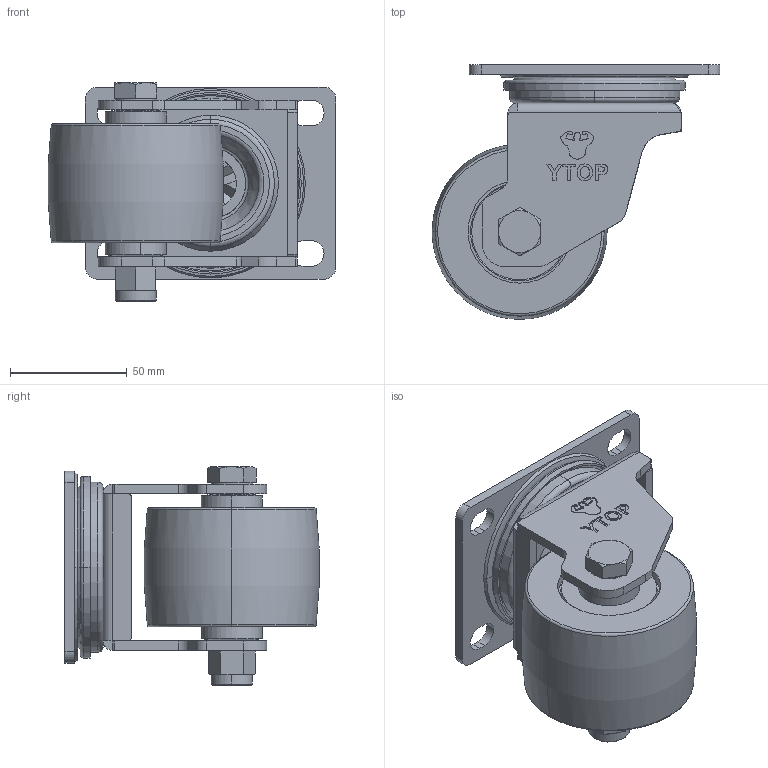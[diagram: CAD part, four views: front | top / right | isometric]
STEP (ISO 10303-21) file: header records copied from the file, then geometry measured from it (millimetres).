
FILE_DESCRIPTION (( 'STEP AP203' ), '1' );
FILE_NAME ('20B-75H-50-PA6 中重型低重心3寸PA6活动轮.STEP', '2023-09-07T08:43:28', ( '' ), ( '' ), 'SwSTEP 2.0', 'SolidWorks 2016', '' );
FILE_SCHEMA (( 'CONFIG_CONTROL_DESIGN' ));
Length unit declared in the file: millimetre
Products named in the file (18): 3寸重型低重心小盖_实测10.1厚; 菜え; 中重型低重心3寸活动轮折板支架; GB／T97．1-2002平垫圈A级16×3; 3寸重型低重心PA6尼龙轮_配62.2套管6202; 重型低重心轮套管17x12x62.2; 恮隊_穩羲袨怓; 中重型低重心3寸活动轮-活动四方板_中重型低重心四方板; 20B-75H-50-PA6 中重型低重心3寸PA6活动轮; GB／T889．1-20001型非金属嵌件六角锁紧螺母M12; 中重型低重心3寸活动轮-下波盘; 中重型低重心3寸活动轮-上波盘; GB／T276-94深沟球轴承6203-2Z; 幗紩10_10; GB／T5782-2000六角头螺栓A级和B级M12×86; 幗紩10_5; 3寸重型低重心PA6尼龙轮_配62.2套管_铁芯; 中重型低重心3寸活动轮-小波盘(65Mn)
Assembly tree (63 placements, depth 3):
  20B-75H-50-PA6 中重型低重心3寸PA6活动轮
    中重型低重心3寸活动轮-下波盘
    幗紩10_5  x28
    幗紩10_10  x18
    中重型低重心3寸活动轮-上波盘
    恮隊_穩羲袨怓
    中重型低重心3寸活动轮-活动四方板_中重型低重心四方板
    菜え
    中重型低重心3寸活动轮折板支架
    3寸重型低重心PA6尼龙轮_配62.2套管6202
      3寸重型低重心PA6尼龙轮_配62.2套管_铁芯
      重型低重心轮套管17x12x62.2
      3寸重型低重心小盖_实测10.1厚  x2
      GB／T276-94深沟球轴承6203-2Z  x2
    GB／T5782-2000六角头螺栓A级和B级M12×86
    GB／T889．1-20001型非金属嵌件六角锁紧螺母M12
    中重型低重心3寸活动轮-小波盘(65Mn)
    GB／T97．1-2002平垫圈A级16×3
Bounding box: 122.84 x 108.62 x 93.5 mm (x, y, z)
Volume: 329012.8 mm3; surface area: 149132.7 mm2
Topology: 62 solids, 62 shells, 1053 faces, 2896 edges, 1891 vertices
Faces by surface type: plane 283, sphere 220, cylinder 174, bspline 170, torus 138, cone 68
Entity records: 33648 total; most frequent: CARTESIAN_POINT 11473, ORIENTED_EDGE 4196, DIRECTION 3618, EDGE_CURVE 2098, AXIS2_PLACEMENT_3D 1428, VERTEX_POINT 1351, EDGE_LOOP 903, FACE_OUTER_BOUND 807
